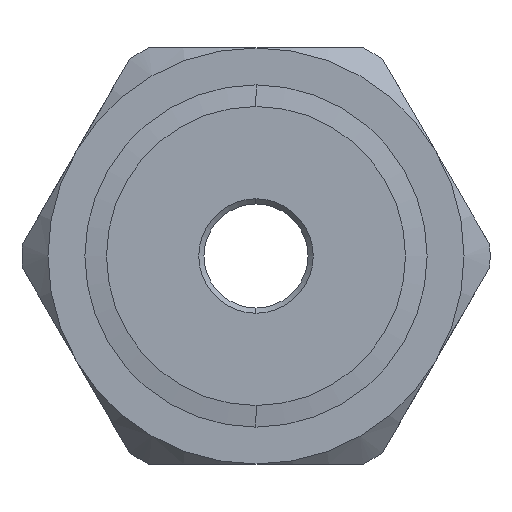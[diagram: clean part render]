
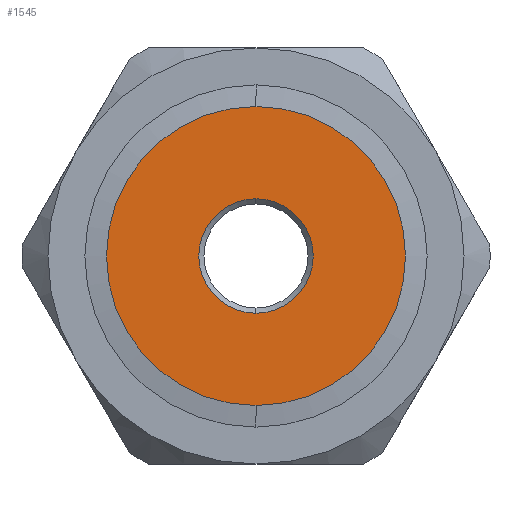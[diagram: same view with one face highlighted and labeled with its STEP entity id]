
A CAD part, front view. The second image highlights one B-rep face of the part: STEP entity #1545.
In plain terms, the highlighted planar face has unit normal (0, -1, 0).
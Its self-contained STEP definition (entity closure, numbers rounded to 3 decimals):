
#30 = CIRCLE ( 'NONE', #1790, 5.75 ) ;
#41 = DIRECTION ( 'NONE',  ( 0., 1., 0. ) ) ;
#412 = ORIENTED_EDGE ( 'NONE', *, *, #839, .T. ) ;
#490 = DIRECTION ( 'NONE',  ( 0., 0., -1. ) ) ;
#513 = DIRECTION ( 'NONE',  ( 0., -1., 0. ) ) ;
#596 = FACE_OUTER_BOUND ( 'NONE', #2291, .T. ) ;
#671 = CARTESIAN_POINT ( 'NONE',  ( 0., -24.8, 0. ) ) ;
#707 = EDGE_CURVE ( 'NONE', #3110, #1913, #2835, .T. ) ;
#714 = EDGE_CURVE ( 'NONE', #2282, #2159, #1124, .T. ) ;
#839 = EDGE_CURVE ( 'NONE', #2159, #2282, #30, .T. ) ;
#1079 = AXIS2_PLACEMENT_3D ( 'NONE', #1644, #3098, #1501 ) ;
#1124 = CIRCLE ( 'NONE', #1079, 5.75 ) ;
#1501 = DIRECTION ( 'NONE',  ( 0., 0., -1. ) ) ;
#1545 = ADVANCED_FACE ( 'NONE', ( #1903, #596 ), #1988, .T. ) ;
#1546 = CARTESIAN_POINT ( 'NONE',  ( 0., -24.8, -5.75 ) ) ;
#1549 = EDGE_LOOP ( 'NONE', ( #3434, #3446 ) ) ;
#1644 = CARTESIAN_POINT ( 'NONE',  ( 0., -24.8, 0. ) ) ;
#1692 = DIRECTION ( 'NONE',  ( 0., 0., -1. ) ) ;
#1758 = CIRCLE ( 'NONE', #2932, 2.2 ) ;
#1790 = AXIS2_PLACEMENT_3D ( 'NONE', #671, #513, #490 ) ;
#1839 = CARTESIAN_POINT ( 'NONE',  ( 0., -24.8, 0. ) ) ;
#1903 = FACE_BOUND ( 'NONE', #1549, .T. ) ;
#1913 = VERTEX_POINT ( 'NONE', #2689 ) ;
#1980 = AXIS2_PLACEMENT_3D ( 'NONE', #1839, #2174, #2993 ) ;
#1988 = PLANE ( 'NONE',  #3279 ) ;
#2044 = CARTESIAN_POINT ( 'NONE',  ( 0., -24.8, -2.2 ) ) ;
#2095 = EDGE_CURVE ( 'NONE', #1913, #3110, #1758, .T. ) ;
#2159 = VERTEX_POINT ( 'NONE', #2331 ) ;
#2174 = DIRECTION ( 'NONE',  ( 0., 1., 0. ) ) ;
#2282 = VERTEX_POINT ( 'NONE', #1546 ) ;
#2291 = EDGE_LOOP ( 'NONE', ( #412, #2369 ) ) ;
#2331 = CARTESIAN_POINT ( 'NONE',  ( 0., -24.8, 5.75 ) ) ;
#2369 = ORIENTED_EDGE ( 'NONE', *, *, #714, .T. ) ;
#2496 = DIRECTION ( 'NONE',  ( 0., -1., 0. ) ) ;
#2546 = CARTESIAN_POINT ( 'NONE',  ( 0., -24.8, 0. ) ) ;
#2689 = CARTESIAN_POINT ( 'NONE',  ( 0., -24.8, 2.2 ) ) ;
#2835 = CIRCLE ( 'NONE', #1980, 2.2 ) ;
#2932 = AXIS2_PLACEMENT_3D ( 'NONE', #2546, #41, #1692 ) ;
#2993 = DIRECTION ( 'NONE',  ( 0., 0., -1. ) ) ;
#3098 = DIRECTION ( 'NONE',  ( 0., -1., 0. ) ) ;
#3110 = VERTEX_POINT ( 'NONE', #2044 ) ;
#3182 = CARTESIAN_POINT ( 'NONE',  ( 0., -24.8, 0. ) ) ;
#3279 = AXIS2_PLACEMENT_3D ( 'NONE', #3182, #2496, #3443 ) ;
#3434 = ORIENTED_EDGE ( 'NONE', *, *, #707, .T. ) ;
#3443 = DIRECTION ( 'NONE',  ( 0., 0., -1. ) ) ;
#3446 = ORIENTED_EDGE ( 'NONE', *, *, #2095, .T. ) ;
